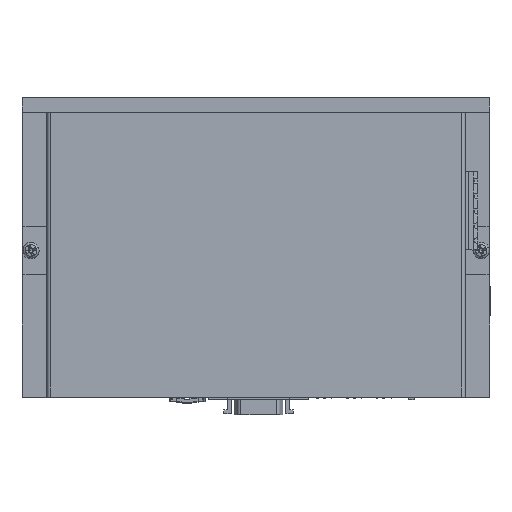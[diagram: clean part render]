
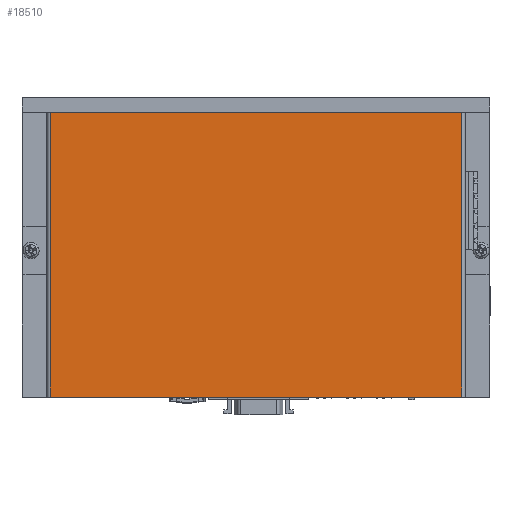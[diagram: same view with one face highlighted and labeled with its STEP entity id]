
A CAD part, top view. The second image highlights one B-rep face of the part: STEP entity #18510.
In plain terms, the highlighted planar face has unit normal (0, 0, 1).
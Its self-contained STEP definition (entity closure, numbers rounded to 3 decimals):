
#3181 = PLANE ( 'NONE',  #21825 ) ;
#10097 = LINE ( 'NONE', #52961, #91500 ) ;
#10509 = EDGE_LOOP ( 'NONE', ( #58204, #24862, #70255, #18292 ) ) ;
#11177 = FACE_OUTER_BOUND ( 'NONE', #10509, .T. ) ;
#13868 = VERTEX_POINT ( 'NONE', #63963 ) ;
#18292 = ORIENTED_EDGE ( 'NONE', *, *, #42728, .T. ) ;
#18510 = ADVANCED_FACE ( 'NONE', ( #11177 ), #3181, .T. ) ;
#19067 = DIRECTION ( 'NONE',  ( 1., 0., 0. ) ) ;
#21825 = AXIS2_PLACEMENT_3D ( 'NONE', #34602, #81769, #19067 ) ;
#22795 = VECTOR ( 'NONE', #56148, 1000. ) ;
#24862 = ORIENTED_EDGE ( 'NONE', *, *, #39939, .T. ) ;
#34602 = CARTESIAN_POINT ( 'NONE',  ( 0., 0., 0. ) ) ;
#34703 = CARTESIAN_POINT ( 'NONE',  ( 0., 95.5, 0. ) ) ;
#34711 = EDGE_CURVE ( 'NONE', #80352, #13868, #43333, .T. ) ;
#39939 = EDGE_CURVE ( 'NONE', #13868, #62219, #48814, .T. ) ;
#42728 = EDGE_CURVE ( 'NONE', #45483, #80352, #10097, .T. ) ;
#43333 = LINE ( 'NONE', #75297, #61848 ) ;
#44018 = DIRECTION ( 'NONE',  ( 1., 0., 0. ) ) ;
#45031 = DIRECTION ( 'NONE',  ( 0., -1., 0. ) ) ;
#45483 = VERTEX_POINT ( 'NONE', #59016 ) ;
#48814 = LINE ( 'NONE', #87371, #22795 ) ;
#49920 = CARTESIAN_POINT ( 'NONE',  ( 1.2, 0., 0. ) ) ;
#52961 = CARTESIAN_POINT ( 'NONE',  ( 1.2, 0., 0. ) ) ;
#56148 = DIRECTION ( 'NONE',  ( 0., 1., 0. ) ) ;
#58204 = ORIENTED_EDGE ( 'NONE', *, *, #34711, .T. ) ;
#59016 = CARTESIAN_POINT ( 'NONE',  ( 1.2, 95.5, 0. ) ) ;
#61848 = VECTOR ( 'NONE', #44018, 1000. ) ;
#61933 = LINE ( 'NONE', #34703, #80263 ) ;
#62219 = VERTEX_POINT ( 'NONE', #84717 ) ;
#63963 = CARTESIAN_POINT ( 'NONE',  ( 139.2, 0., 0. ) ) ;
#70255 = ORIENTED_EDGE ( 'NONE', *, *, #74025, .F. ) ;
#74025 = EDGE_CURVE ( 'NONE', #45483, #62219, #61933, .T. ) ;
#75297 = CARTESIAN_POINT ( 'NONE',  ( 0., 0., 0. ) ) ;
#80263 = VECTOR ( 'NONE', #81068, 1000. ) ;
#80352 = VERTEX_POINT ( 'NONE', #49920 ) ;
#81068 = DIRECTION ( 'NONE',  ( 1., 0., 0. ) ) ;
#81769 = DIRECTION ( 'NONE',  ( 0., 0., 1. ) ) ;
#84717 = CARTESIAN_POINT ( 'NONE',  ( 139.2, 95.5, 0. ) ) ;
#87371 = CARTESIAN_POINT ( 'NONE',  ( 139.2, 0., 0. ) ) ;
#91500 = VECTOR ( 'NONE', #45031, 1000. ) ;
